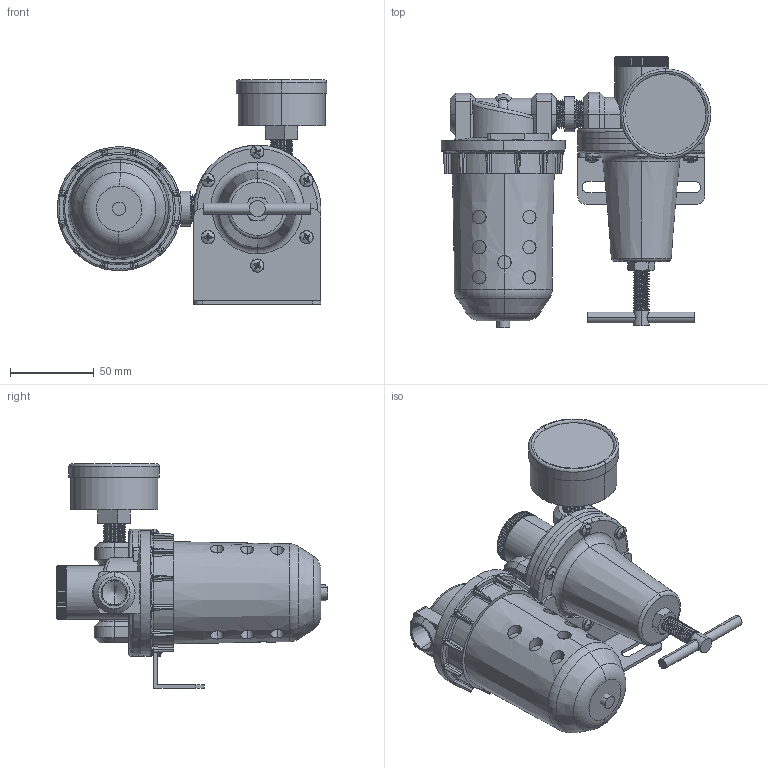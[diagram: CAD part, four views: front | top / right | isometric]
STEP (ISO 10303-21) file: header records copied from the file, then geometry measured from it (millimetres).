
FILE_DESCRIPTION (( 'STEP AP203' ), '1' );
FILE_NAME ('U628#-03#YB#.STEP', '2016-02-16T06:39:37', ( 'Toshiba' ), ( 'Toshiba' ), 'SwSTEP 2.0', 'SolidWorks 2014', '' );
FILE_SCHEMA (( 'CONFIG_CONTROL_DESIGN' ));
Length unit declared in the file: millimetre
Products named in the file (19): F602-03#YB#; 50-P-AD=1-4PT-1; R119-02-6; R119-02-5; U628#-03#YB#; R119-02-4; R119-02-2; R119-02-1; 50-P-AD=1-4PT.SLDPRT; 50-P-AD=1-4PT-2; KW15Y57; L606-W-06-5; R119-03; R119-02-7; F602-02-2; ISO 7045 - M4 x 16
Assembly tree (23 placements, depth 4):
  U628#-03#YB#
    F602-03#YB#
      (unnamed)
      F602-02-2
      L606-W-06-5
    R119-03
      R119-02-1
      R119-02-2
      (unnamed)
      R119-02-4
      ISO 7045 - M4 x 16  x6
      R119-02-5
      R119-02-6
      R119-02-7
      KW15Y57
      50-P-AD=1-4PT.SLDPRT
        50-P-AD=1-4PT-1
        50-P-AD=1-4PT-2
    (unnamed)
Bounding box: 161 x 162 x 134 mm (x, y, z)
Volume: 626826.1 mm3; surface area: 123405.6 mm2
Topology: 20 solids, 20 shells, 1212 faces, 2962 edges, 1772 vertices
Faces by surface type: plane 407, cylinder 312, cone 275, bspline 106, torus 70, sphere 42
Entity records: 46167 total; most frequent: CARTESIAN_POINT 21587, ORIENTED_EDGE 5008, DIRECTION 4341, EDGE_CURVE 2504, AXIS2_PLACEMENT_3D 1780, VERTEX_POINT 1517, EDGE_LOOP 1093, FACE_OUTER_BOUND 1042
